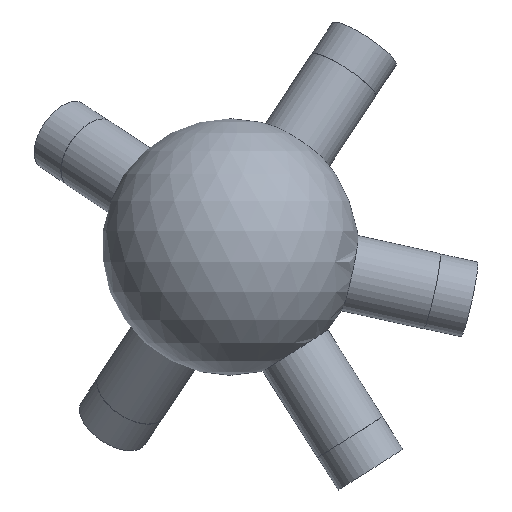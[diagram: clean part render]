
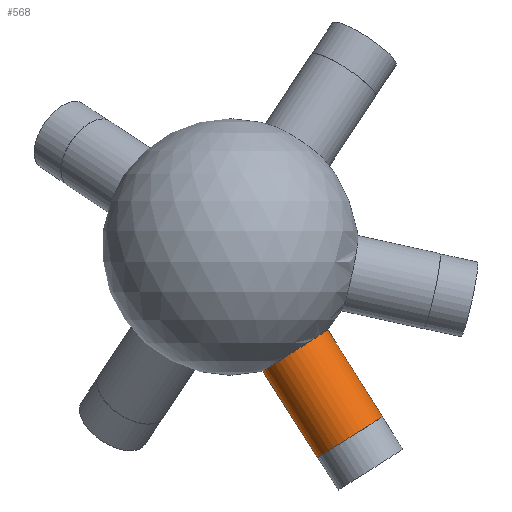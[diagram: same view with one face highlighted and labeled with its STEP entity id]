
A CAD part, left-side view. The second image highlights one B-rep face of the part: STEP entity #568.
In plain terms, the highlighted cylindrical face has radius 6 mm (diameter 12 mm), a full revolution.
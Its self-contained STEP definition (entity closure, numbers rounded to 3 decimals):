
#35 = SPHERICAL_SURFACE('',#36,20.);
#36 = AXIS2_PLACEMENT_3D('',#37,#38,#39);
#37 = CARTESIAN_POINT('',(0.,0.,0.));
#38 = DIRECTION('',(0.,0.,1.));
#39 = DIRECTION('',(1.,0.,-0.));
#130 = EDGE_CURVE('',#131,#131,#133,.T.);
#131 = VERTEX_POINT('',#132);
#132 = CARTESIAN_POINT('',(0.128,-15.256,-12.932
    ));
#133 = SURFACE_CURVE('',#134,(#139,#229),.PCURVE_S1.);
#134 = CIRCLE('',#135,6.);
#135 = AXIS2_PLACEMENT_3D('',#136,#137,#138);
#136 = CARTESIAN_POINT('',(0.128,-10.182,
    -16.134));
#137 = DIRECTION('',(0.007,-0.534,-0.846)
  );
#138 = DIRECTION('',(0.,0.846,-0.534)
  );
#139 = PCURVE('',#35,#140);
#140 = DEFINITIONAL_REPRESENTATION('',(#141),#228);
#141 = B_SPLINE_CURVE_WITH_KNOTS('',8,(#142,#143,#144,#145,#146,#147,
    #148,#149,#150,#151,#152,#153,#154,#155,#156,#157,#158,#159,#160,
    #161,#162,#163,#164,#165,#166,#167,#168,#169,#170,#171,#172,#173,
    #174,#175,#176,#177,#178,#179,#180,#181,#182,#183,#184,#185,#186,
    #187,#188,#189,#190,#191,#192,#193,#194,#195,#196,#197,#198,#199,
    #200,#201,#202,#203,#204,#205,#206,#207,#208,#209,#210,#211,#212,
    #213,#214,#215,#216,#217,#218,#219,#220,#221,#222,#223,#224,#225,
    #226,#227),.UNSPECIFIED.,.F.,.F.,(9,7,7,7,7,7,7,7,7,7,7,7,9),(
    3.142,3.927,4.614,5.216,
    5.742,5.972,6.188,6.592,
    6.946,7.256,7.798,8.612,
    9.425),.UNSPECIFIED.);
#142 = CARTESIAN_POINT('',(4.721,-0.703));
#143 = CARTESIAN_POINT('',(4.682,-0.703));
#144 = CARTESIAN_POINT('',(4.644,-0.706));
#145 = CARTESIAN_POINT('',(4.605,-0.711));
#146 = CARTESIAN_POINT('',(4.567,-0.718));
#147 = CARTESIAN_POINT('',(4.53,-0.727));
#148 = CARTESIAN_POINT('',(4.493,-0.739));
#149 = CARTESIAN_POINT('',(4.457,-0.752));
#150 = CARTESIAN_POINT('',(4.392,-0.782));
#151 = CARTESIAN_POINT('',(4.362,-0.797));
#152 = CARTESIAN_POINT('',(4.334,-0.813));
#153 = CARTESIAN_POINT('',(4.307,-0.831));
#154 = CARTESIAN_POINT('',(4.28,-0.851));
#155 = CARTESIAN_POINT('',(4.256,-0.871));
#156 = CARTESIAN_POINT('',(4.233,-0.893));
#157 = CARTESIAN_POINT('',(4.194,-0.935));
#158 = CARTESIAN_POINT('',(4.178,-0.955));
#159 = CARTESIAN_POINT('',(4.163,-0.976));
#160 = CARTESIAN_POINT('',(4.151,-0.998));
#161 = CARTESIAN_POINT('',(4.14,-1.02));
#162 = CARTESIAN_POINT('',(4.133,-1.042));
#163 = CARTESIAN_POINT('',(4.128,-1.065));
#164 = CARTESIAN_POINT('',(4.128,-1.107));
#165 = CARTESIAN_POINT('',(4.13,-1.127));
#166 = CARTESIAN_POINT('',(4.137,-1.146));
#167 = CARTESIAN_POINT('',(4.147,-1.166));
#168 = CARTESIAN_POINT('',(4.162,-1.185));
#169 = CARTESIAN_POINT('',(4.182,-1.203));
#170 = CARTESIAN_POINT('',(4.209,-1.221));
#171 = CARTESIAN_POINT('',(4.258,-1.244));
#172 = CARTESIAN_POINT('',(4.274,-1.251));
#173 = CARTESIAN_POINT('',(4.292,-1.258));
#174 = CARTESIAN_POINT('',(4.311,-1.264));
#175 = CARTESIAN_POINT('',(4.332,-1.27));
#176 = CARTESIAN_POINT('',(4.354,-1.276));
#177 = CARTESIAN_POINT('',(4.378,-1.281));
#178 = CARTESIAN_POINT('',(4.427,-1.29));
#179 = CARTESIAN_POINT('',(4.452,-1.294));
#180 = CARTESIAN_POINT('',(4.479,-1.298));
#181 = CARTESIAN_POINT('',(4.506,-1.302));
#182 = CARTESIAN_POINT('',(4.535,-1.304));
#183 = CARTESIAN_POINT('',(4.565,-1.307));
#184 = CARTESIAN_POINT('',(4.595,-1.309));
#185 = CARTESIAN_POINT('',(4.684,-1.313));
#186 = CARTESIAN_POINT('',(4.744,-1.314));
#187 = CARTESIAN_POINT('',(4.804,-1.313));
#188 = CARTESIAN_POINT('',(4.863,-1.31));
#189 = CARTESIAN_POINT('',(4.92,-1.305));
#190 = CARTESIAN_POINT('',(4.972,-1.299));
#191 = CARTESIAN_POINT('',(5.02,-1.291));
#192 = CARTESIAN_POINT('',(5.101,-1.275));
#193 = CARTESIAN_POINT('',(5.135,-1.266));
#194 = CARTESIAN_POINT('',(5.165,-1.256));
#195 = CARTESIAN_POINT('',(5.192,-1.246));
#196 = CARTESIAN_POINT('',(5.215,-1.235));
#197 = CARTESIAN_POINT('',(5.235,-1.223));
#198 = CARTESIAN_POINT('',(5.252,-1.212));
#199 = CARTESIAN_POINT('',(5.28,-1.189));
#200 = CARTESIAN_POINT('',(5.29,-1.178));
#201 = CARTESIAN_POINT('',(5.299,-1.167));
#202 = CARTESIAN_POINT('',(5.306,-1.155));
#203 = CARTESIAN_POINT('',(5.312,-1.144));
#204 = CARTESIAN_POINT('',(5.316,-1.133));
#205 = CARTESIAN_POINT('',(5.319,-1.121));
#206 = CARTESIAN_POINT('',(5.323,-1.089));
#207 = CARTESIAN_POINT('',(5.323,-1.069));
#208 = CARTESIAN_POINT('',(5.319,-1.048));
#209 = CARTESIAN_POINT('',(5.312,-1.028));
#210 = CARTESIAN_POINT('',(5.304,-1.008));
#211 = CARTESIAN_POINT('',(5.293,-0.989));
#212 = CARTESIAN_POINT('',(5.281,-0.97));
#213 = CARTESIAN_POINT('',(5.246,-0.923));
#214 = CARTESIAN_POINT('',(5.222,-0.896));
#215 = CARTESIAN_POINT('',(5.195,-0.87));
#216 = CARTESIAN_POINT('',(5.165,-0.846));
#217 = CARTESIAN_POINT('',(5.134,-0.824));
#218 = CARTESIAN_POINT('',(5.1,-0.804));
#219 = CARTESIAN_POINT('',(5.066,-0.785));
#220 = CARTESIAN_POINT('',(4.994,-0.753));
#221 = CARTESIAN_POINT('',(4.957,-0.739));
#222 = CARTESIAN_POINT('',(4.919,-0.727));
#223 = CARTESIAN_POINT('',(4.88,-0.717));
#224 = CARTESIAN_POINT('',(4.841,-0.71));
#225 = CARTESIAN_POINT('',(4.801,-0.705));
#226 = CARTESIAN_POINT('',(4.761,-0.703));
#227 = CARTESIAN_POINT('',(4.721,-0.703));
#228 = ( GEOMETRIC_REPRESENTATION_CONTEXT(2) 
PARAMETRIC_REPRESENTATION_CONTEXT() REPRESENTATION_CONTEXT('2D SPACE',''
  ) );
#229 = PCURVE('',#230,#235);
#230 = CYLINDRICAL_SURFACE('',#231,6.);
#231 = AXIS2_PLACEMENT_3D('',#232,#233,#234);
#232 = CARTESIAN_POINT('',(0.,0.,0.));
#233 = DIRECTION('',(0.007,-0.534,-0.846)
  );
#234 = DIRECTION('',(0.,-0.846,0.534)
  );
#235 = DEFINITIONAL_REPRESENTATION('',(#236),#240);
#236 = LINE('',#237,#238);
#237 = CARTESIAN_POINT('',(-3.142,19.079));
#238 = VECTOR('',#239,1.);
#239 = DIRECTION('',(1.,0.));
#240 = ( GEOMETRIC_REPRESENTATION_CONTEXT(2) 
PARAMETRIC_REPRESENTATION_CONTEXT() REPRESENTATION_CONTEXT('2D SPACE',''
  ) );
#568 = ADVANCED_FACE('',(#569),#230,.T.);
#569 = FACE_BOUND('',#570,.T.);
#570 = EDGE_LOOP('',(#571,#594,#621,#622));
#571 = ORIENTED_EDGE('',*,*,#572,.T.);
#572 = EDGE_CURVE('',#131,#573,#575,.T.);
#573 = VERTEX_POINT('',#574);
#574 = CARTESIAN_POINT('',(0.234,-23.773,-26.43
    ));
#575 = SEAM_CURVE('',#576,(#580,#587),.PCURVE_S1.);
#576 = LINE('',#577,#578);
#577 = CARTESIAN_POINT('',(0.,-5.074,
    3.202));
#578 = VECTOR('',#579,1.);
#579 = DIRECTION('',(0.007,-0.534,-0.846)
  );
#580 = PCURVE('',#230,#581);
#581 = DEFINITIONAL_REPRESENTATION('',(#582),#586);
#582 = LINE('',#583,#584);
#583 = CARTESIAN_POINT('',(6.283,-0.));
#584 = VECTOR('',#585,1.);
#585 = DIRECTION('',(0.,1.));
#586 = ( GEOMETRIC_REPRESENTATION_CONTEXT(2) 
PARAMETRIC_REPRESENTATION_CONTEXT() REPRESENTATION_CONTEXT('2D SPACE',''
  ) );
#587 = PCURVE('',#230,#588);
#588 = DEFINITIONAL_REPRESENTATION('',(#589),#593);
#589 = LINE('',#590,#591);
#590 = CARTESIAN_POINT('',(0.,-0.));
#591 = VECTOR('',#592,1.);
#592 = DIRECTION('',(0.,1.));
#593 = ( GEOMETRIC_REPRESENTATION_CONTEXT(2) 
PARAMETRIC_REPRESENTATION_CONTEXT() REPRESENTATION_CONTEXT('2D SPACE',''
  ) );
#594 = ORIENTED_EDGE('',*,*,#595,.F.);
#595 = EDGE_CURVE('',#573,#573,#596,.T.);
#596 = SURFACE_CURVE('',#597,(#602,#609),.PCURVE_S1.);
#597 = CIRCLE('',#598,6.);
#598 = AXIS2_PLACEMENT_3D('',#599,#600,#601);
#599 = CARTESIAN_POINT('',(0.234,-18.699,-29.632
    ));
#600 = DIRECTION('',(0.007,-0.534,-0.846)
  );
#601 = DIRECTION('',(0.,-0.846,0.534)
  );
#602 = PCURVE('',#230,#603);
#603 = DEFINITIONAL_REPRESENTATION('',(#604),#608);
#604 = LINE('',#605,#606);
#605 = CARTESIAN_POINT('',(0.,35.039));
#606 = VECTOR('',#607,1.);
#607 = DIRECTION('',(1.,0.));
#608 = ( GEOMETRIC_REPRESENTATION_CONTEXT(2) 
PARAMETRIC_REPRESENTATION_CONTEXT() REPRESENTATION_CONTEXT('2D SPACE',''
  ) );
#609 = PCURVE('',#610,#615);
#610 = PLANE('',#611);
#611 = AXIS2_PLACEMENT_3D('',#612,#613,#614);
#612 = CARTESIAN_POINT('',(0.234,-18.699,-29.632
    ));
#613 = DIRECTION('',(0.007,-0.534,-0.846)
  );
#614 = DIRECTION('',(0.,-0.846,0.534)
  );
#615 = DEFINITIONAL_REPRESENTATION('',(#616),#620);
#616 = CIRCLE('',#617,6.);
#617 = AXIS2_PLACEMENT_2D('',#618,#619);
#618 = CARTESIAN_POINT('',(0.,0.));
#619 = DIRECTION('',(1.,0.));
#620 = ( GEOMETRIC_REPRESENTATION_CONTEXT(2) 
PARAMETRIC_REPRESENTATION_CONTEXT() REPRESENTATION_CONTEXT('2D SPACE',''
  ) );
#621 = ORIENTED_EDGE('',*,*,#572,.F.);
#622 = ORIENTED_EDGE('',*,*,#130,.T.);
